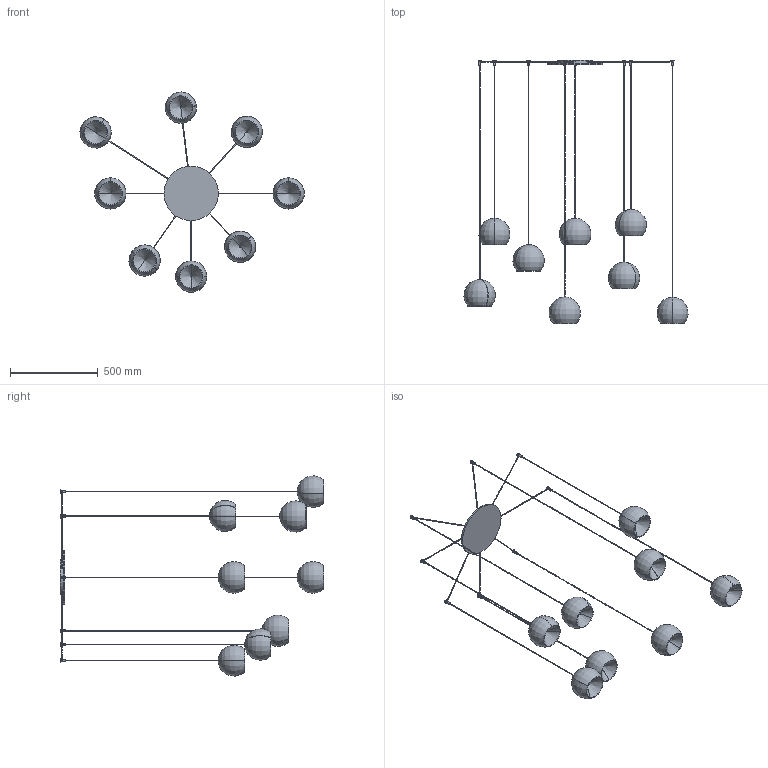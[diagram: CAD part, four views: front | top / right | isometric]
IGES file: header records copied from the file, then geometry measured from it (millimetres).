
Start section: SolidWorks IGES file using analytic representation for surfaces
Global section: file name: Y:\eforma\TECNICO\SOLIDWORKS\E-FORMA\09-LAMPADE\CHERRY\02 parts\CHRA5-00-CHERRY_8 sospensione.IGS; native system: SolidWorks 2022; preprocessor: SolidWorks 2022; author: eforma.tech; date: 250506.081757; units: millimetre
Bounding box: 1276.99 x 1500 x 1140.95 mm (x, y, z)
Volume: 2870442.2 mm3; surface area: 2011665.5 mm2
Topology: 41 solids, 41 shells, 313 faces, 658 edges, 412 vertices
Faces by surface type: revolution 214, plane 99
